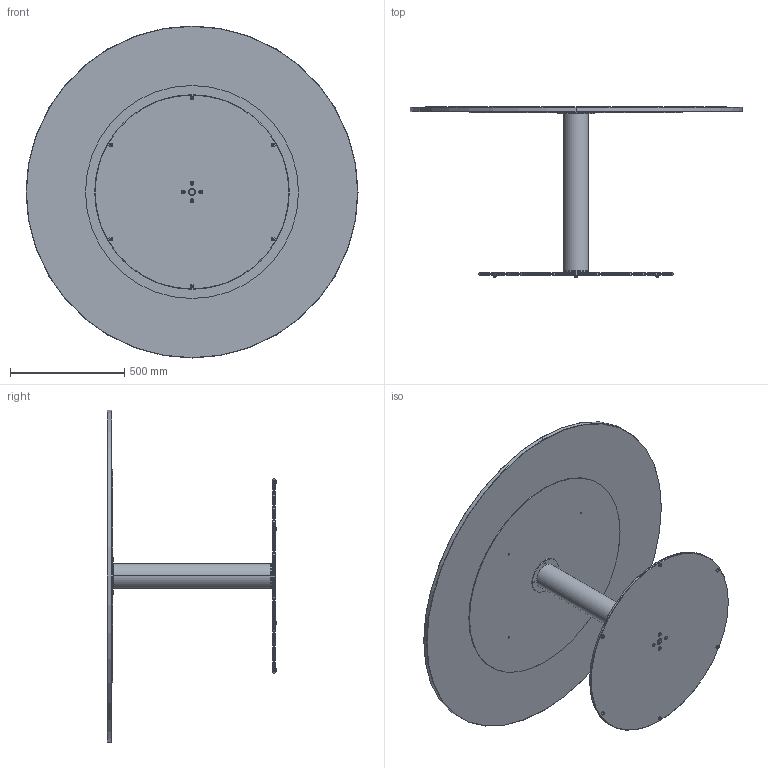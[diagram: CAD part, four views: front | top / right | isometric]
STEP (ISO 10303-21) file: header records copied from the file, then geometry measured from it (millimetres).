
FILE_DESCRIPTION (( 'STEP AP214' ), '1' );
FILE_NAME ('Missing Bistro Table, Ø145 Assembly.STEP', '2025-01-22T14:45:04', ( '' ), ( '' ), 'SwSTEP 2.0', 'SolidWorks 2024', '' );
FILE_SCHEMA (( 'AUTOMOTIVE_DESIGN' ));
Length unit declared in the file: millimetre
Products named in the file (5): Ø145 Tabletop; Missing Bistro Table, X-Large Base; Missing Bistro Table, X-Large Support plate; Missing Bistro Table, Ø145 Assembly; Missing Bistro Table, X-Large column Ø110
Assembly tree (4 placements, depth 2):
  Missing Bistro Table, Ø145 Assembly
    Missing Bistro Table, X-Large Base
    Missing Bistro Table, X-Large column Ø110
    Missing Bistro Table, X-Large Support plate
    Ø145 Tabletop
Bounding box: 1450 x 742 x 1450 mm (x, y, z)
Volume: 42397930.1 mm3; surface area: 6423438.3 mm2
Topology: 12 solids, 12 shells, 150 faces, 326 edges, 204 vertices
Faces by surface type: cylinder 82, plane 28, cone 28, torus 12
Entity records: 4492 total; most frequent: DIRECTION 856, CARTESIAN_POINT 687, ORIENTED_EDGE 652, AXIS2_PLACEMENT_3D 373, EDGE_CURVE 326, CIRCLE 216, EDGE_LOOP 204, VERTEX_POINT 204
